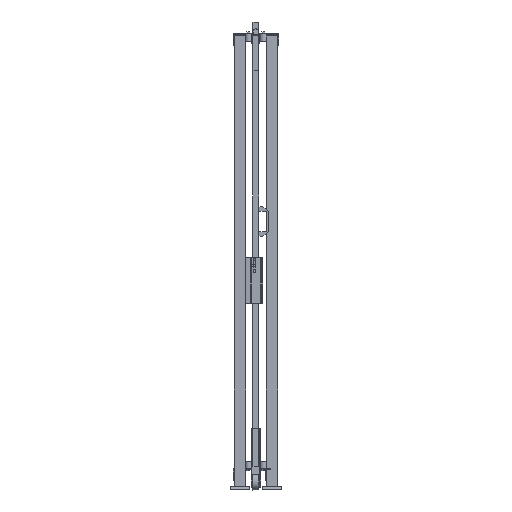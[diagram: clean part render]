
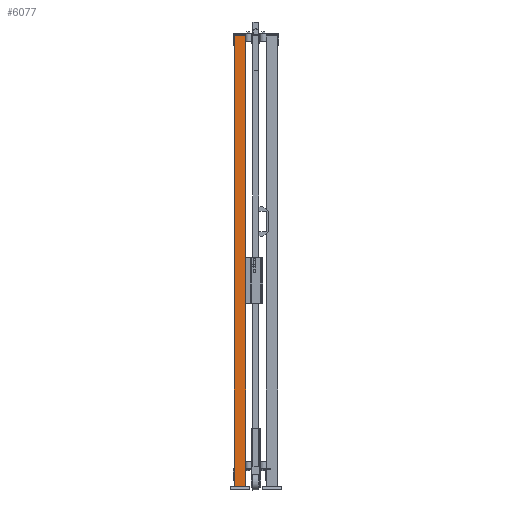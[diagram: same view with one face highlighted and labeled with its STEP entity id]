
A CAD part, left-side view. The second image highlights one B-rep face of the part: STEP entity #6077.
In plain terms, the highlighted planar face has unit normal (-1, 0, 0) as drawn and (0, 1, 0) by its records, which use the part's own axes.
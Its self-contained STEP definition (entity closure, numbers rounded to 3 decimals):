
#594=FACE_OUTER_BOUND('',#1061,.T.);
#1061=EDGE_LOOP('',(#3848,#3849,#3850,#3851));
#1589=VERTEX_POINT('',#13776);
#1590=VERTEX_POINT('',#13778);
#1592=VERTEX_POINT('',#13784);
#1595=VERTEX_POINT('',#13789);
#2463=EDGE_CURVE('',#1589,#1590,#7460,.T.);
#2469=EDGE_CURVE('',#1595,#1592,#7466,.T.);
#2472=EDGE_CURVE('',#1590,#1595,#7469,.T.);
#2473=EDGE_CURVE('',#1589,#1592,#7470,.T.);
#3848=ORIENTED_EDGE('',*,*,#2473,.T.);
#3849=ORIENTED_EDGE('',*,*,#2469,.F.);
#3850=ORIENTED_EDGE('',*,*,#2472,.F.);
#3851=ORIENTED_EDGE('',*,*,#2463,.F.);
#5654=PLANE('',#9570);
#6077=ADVANCED_FACE('',(#594),#5654,.F.);
#7460=LINE('',#13779,#8659);
#7466=LINE('',#13791,#8665);
#7469=LINE('',#13796,#8668);
#7470=LINE('',#13798,#8669);
#8659=VECTOR('',#10765,1.);
#8665=VECTOR('',#10773,1.);
#8668=VECTOR('',#10780,1.);
#8669=VECTOR('',#10783,1.);
#9570=AXIS2_PLACEMENT_3D('',#13797,#10781,#10782);
#10765=DIRECTION('',(-1.,0.,0.));
#10773=DIRECTION('',(1.,0.,0.));
#10780=DIRECTION('',(0.,0.,-1.));
#10781=DIRECTION('center_axis',(0.,-1.,0.));
#10782=DIRECTION('ref_axis',(0.,0.,-1.));
#10783=DIRECTION('',(0.,0.,-1.));
#13776=CARTESIAN_POINT('',(30.,30.,2320.));
#13778=CARTESIAN_POINT('',(-30.,30.,2320.));
#13779=CARTESIAN_POINT('',(0.,30.,2320.));
#13784=CARTESIAN_POINT('',(30.,30.,20.));
#13789=CARTESIAN_POINT('',(-30.,30.,20.));
#13791=CARTESIAN_POINT('',(0.,30.,20.));
#13796=CARTESIAN_POINT('',(-30.,30.,1170.));
#13797=CARTESIAN_POINT('Origin',(0.,30.,
1170.));
#13798=CARTESIAN_POINT('',(30.,30.,1170.));
